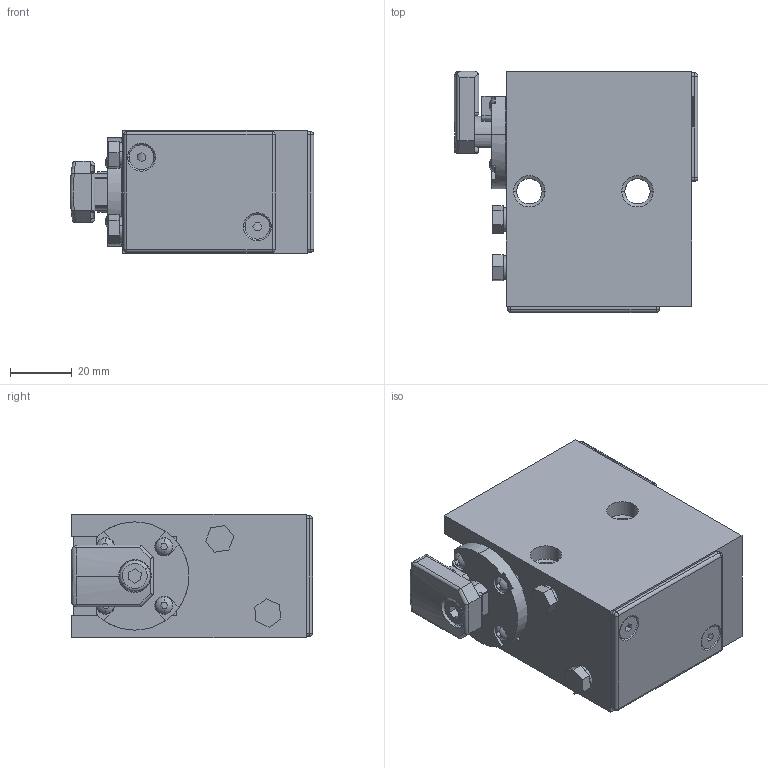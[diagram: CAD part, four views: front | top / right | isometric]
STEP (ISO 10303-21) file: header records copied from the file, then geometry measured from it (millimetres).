
FILE_DESCRIPTION (( 'STEP AP203' ), '1' );
FILE_NAME ('DAU-80-08-DW_Grundstellung.STEP', '2020-09-25T07:07:31', ( '' ), ( '' ), 'SwSTEP 2.0', 'SolidWorks 2017', '' );
FILE_SCHEMA (( 'CONFIG_CONTROL_DESIGN' ));
Length unit declared in the file: millimetre
Products named in the file (2): DAU-80-08-DW_Grundstellung
Bounding box: 78.8 x 78 x 40 mm (x, y, z)
Surface area: 36830.9 mm2 (no closed solid volume)
Topology: 0 solids, 19 shells, 257 faces, 770 edges, 512 vertices
Faces by surface type: plane 126, cylinder 85, sphere 16, cone 14, torus 14, bspline 2
Entity records: 8968 total; most frequent: CARTESIAN_POINT 1835, DIRECTION 1538, ORIENTED_EDGE 1311, EDGE_CURVE 762, AXIS2_PLACEMENT_3D 557, VERTEX_POINT 512, VECTOR 424, LINE 424
